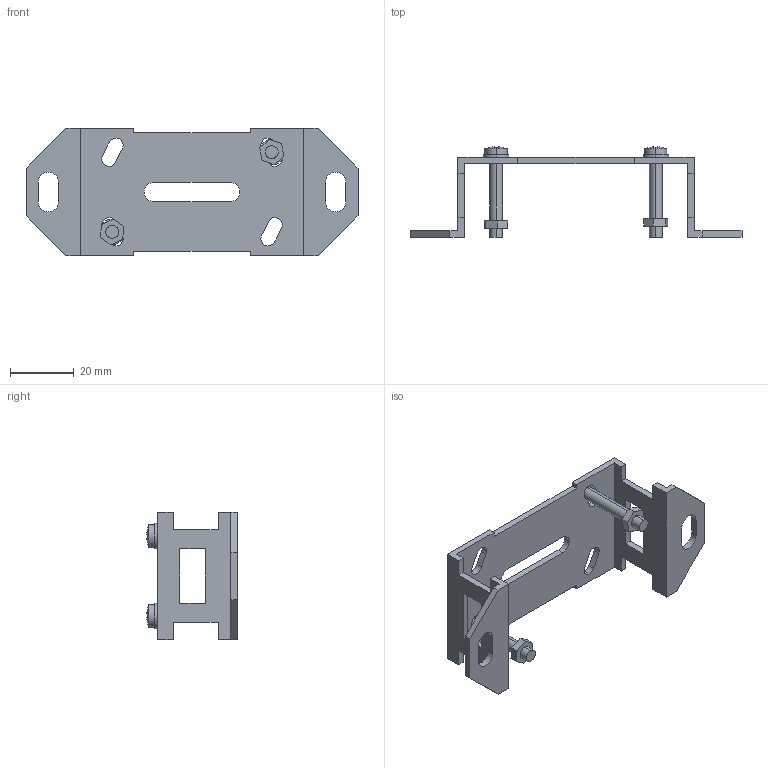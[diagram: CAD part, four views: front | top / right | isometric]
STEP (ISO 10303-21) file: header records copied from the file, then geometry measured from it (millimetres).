
FILE_DESCRIPTION (( 'STEP AP203' ), '1' );
FILE_NAME ('MS-NX5-2.STEP', '2005-10-26T07:23:15', ( '' ), ( '' ), 'SwSTEP 2.0', 'SolidWorks 2004073', '' );
FILE_SCHEMA (( 'CONFIG_CONTROL_DESIGN' ));
Length unit declared in the file: millimetre
Products named in the file (4): MS-NX5-2_蹬怮椔; M4L25add_fw_蹬怮椔; M4S7T2.4hex_nut_蹬怮椔; MS-NX5-2
Assembly tree (5 placements, depth 2):
  MS-NX5-2
    M4S7T2.4hex_nut_蹬怮椔  x2
    M4L25add_fw_蹬怮椔  x2
    MS-NX5-2_蹬怮椔
Bounding box: 104 x 28.36 x 40 mm (x, y, z)
Volume: 10065.2 mm3; surface area: 11820.5 mm2
Topology: 5 solids, 5 shells, 150 faces, 404 edges, 268 vertices
Faces by surface type: plane 104, cylinder 42, sphere 4
Entity records: 4232 total; most frequent: CARTESIAN_POINT 660, DIRECTION 654, ORIENTED_EDGE 644, EDGE_CURVE 322, LINE 238, VECTOR 238, VERTEX_POINT 214, AXIS2_PLACEMENT_3D 208
